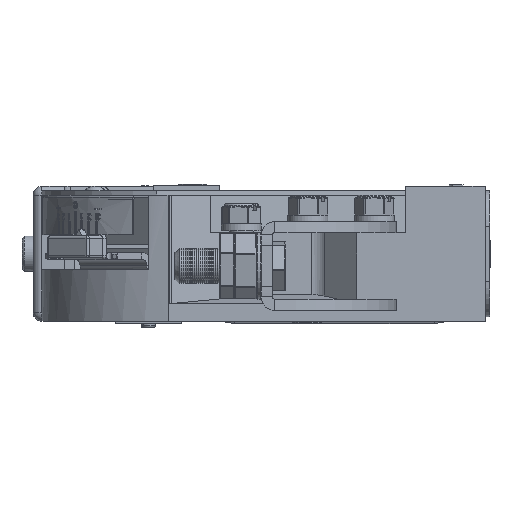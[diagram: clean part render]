
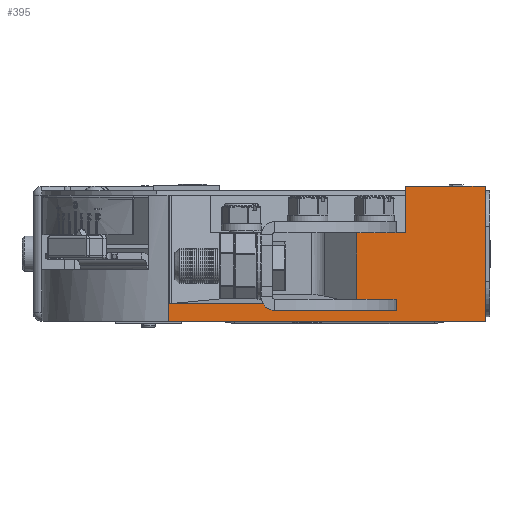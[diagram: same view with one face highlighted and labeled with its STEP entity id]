
A CAD part, left-side view. The second image highlights one B-rep face of the part: STEP entity #395.
In plain terms, the highlighted planar face has unit normal (-1, 0, 0).
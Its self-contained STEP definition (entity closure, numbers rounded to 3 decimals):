
#395=ADVANCED_FACE('',(#29205),#29207,.F.);
#29205=FACE_BOUND('',#29206,.T.);
#29206=EDGE_LOOP('',(#68160,#68161,#68162,#68163,#68164,#68165,#68166,#68167,#68168,
#68169,#68170));
#29207=PLANE('',#29208);
#29208=AXIS2_PLACEMENT_3D('',#29209,#29210,#29211);
#29209=CARTESIAN_POINT('',(-44.324,-49.546,9.62));
#29210=DIRECTION('',(1.,0.,0.));
#29211=DIRECTION('',(0.,0.,-1.));
#68160=ORIENTED_EDGE('',*,*,#84037,.F.);
#68161=ORIENTED_EDGE('',*,*,#84038,.F.);
#68162=ORIENTED_EDGE('',*,*,#84039,.T.);
#68163=ORIENTED_EDGE('',*,*,#84040,.T.);
#68164=ORIENTED_EDGE('',*,*,#84041,.F.);
#68165=ORIENTED_EDGE('',*,*,#84042,.T.);
#68166=ORIENTED_EDGE('',*,*,#84043,.T.);
#68167=ORIENTED_EDGE('',*,*,#84044,.F.);
#68168=ORIENTED_EDGE('',*,*,#84045,.F.);
#68169=ORIENTED_EDGE('',*,*,#84046,.F.);
#68170=ORIENTED_EDGE('',*,*,#83887,.F.);
#83887=EDGE_CURVE('',#91696,#91699,#91700,.T.);
#84037=EDGE_CURVE('',#91971,#91696,#91972,.T.);
#84038=EDGE_CURVE('',#91973,#91971,#91974,.T.);
#84039=EDGE_CURVE('',#91973,#91975,#91976,.T.);
#84040=EDGE_CURVE('',#91975,#91977,#91978,.T.);
#84041=EDGE_CURVE('',#91979,#91977,#91980,.T.);
#84042=EDGE_CURVE('',#91979,#91981,#91982,.T.);
#84043=EDGE_CURVE('',#91981,#91983,#91984,.T.);
#84044=EDGE_CURVE('',#91985,#91983,#91986,.T.);
#84045=EDGE_CURVE('',#91987,#91985,#91988,.T.);
#84046=EDGE_CURVE('',#91699,#91987,#91989,.T.);
#91696=VERTEX_POINT('',#104659);
#91699=VERTEX_POINT('',#104664);
#91700=LINE('',#104665,#104666);
#91971=VERTEX_POINT('',#105310);
#91972=LINE('',#105311,#105312);
#91973=VERTEX_POINT('',#105314);
#91974=LINE('',#105315,#105316);
#91975=VERTEX_POINT('',#105318);
#91976=LINE('',#105319,#105320);
#91977=VERTEX_POINT('',#105322);
#91978=LINE('',#105323,#105324);
#91979=VERTEX_POINT('',#105326);
#91980=LINE('',#105327,#105328);
#91981=VERTEX_POINT('',#105330);
#91982=LINE('',#105331,#105332);
#91983=VERTEX_POINT('',#105334);
#91984=LINE('',#105335,#105336);
#91985=VERTEX_POINT('',#105338);
#91986=LINE('',#105339,#105340);
#91987=VERTEX_POINT('',#105342);
#91988=LINE('',#105343,#105344);
#91989=LINE('',#105346,#105347);
#104659=CARTESIAN_POINT('',(-44.324,-28.546,-0.88));
#104664=CARTESIAN_POINT('',(-44.324,-30.546,-0.88));
#104665=CARTESIAN_POINT('',(-44.324,-28.546,-0.88));
#104666=VECTOR('',#104667,1.);
#104667=DIRECTION('',(0.,-1.,0.));
#105310=CARTESIAN_POINT('',(-44.324,-19.546,-0.88));
#105311=CARTESIAN_POINT('',(-44.324,-19.546,-0.88));
#105312=VECTOR('',#105313,1.);
#105313=DIRECTION('',(0.,-1.,0.));
#105314=CARTESIAN_POINT('',(-44.324,-19.546,-16.88));
#105315=CARTESIAN_POINT('',(-44.324,-19.546,-16.88));
#105316=VECTOR('',#105317,1.);
#105317=DIRECTION('',(0.,0.,1.));
#105318=CARTESIAN_POINT('',(-44.324,22.686,-16.88));
#105319=CARTESIAN_POINT('',(-44.324,-19.546,-16.88));
#105320=VECTOR('',#105321,1.);
#105321=DIRECTION('',(0.,1.,0.));
#105322=CARTESIAN_POINT('',(-44.324,22.686,7.62));
#105323=CARTESIAN_POINT('',(-44.324,22.686,-16.88));
#105324=VECTOR('',#105325,1.);
#105325=DIRECTION('',(0.,0.,1.));
#105326=CARTESIAN_POINT('',(-44.324,22.804,7.62));
#105327=CARTESIAN_POINT('',(-44.324,22.804,7.62));
#105328=VECTOR('',#105329,1.);
#105329=DIRECTION('',(0.,-1.,0.));
#105330=CARTESIAN_POINT('',(-44.324,22.804,-20.88));
#105331=CARTESIAN_POINT('',(-44.324,22.804,7.62));
#105332=VECTOR('',#105333,1.);
#105333=DIRECTION('',(0.,0.,-1.));
#105334=CARTESIAN_POINT('',(-44.324,-48.546,-20.88));
#105335=CARTESIAN_POINT('',(-44.324,22.804,-20.88));
#105336=VECTOR('',#105337,1.);
#105337=DIRECTION('',(0.,-1.,0.));
#105338=CARTESIAN_POINT('',(-44.324,-48.546,9.62));
#105339=CARTESIAN_POINT('',(-44.324,-48.546,9.62));
#105340=VECTOR('',#105341,1.);
#105341=DIRECTION('',(0.,0.,-1.));
#105342=CARTESIAN_POINT('',(-44.324,-30.546,9.62));
#105343=CARTESIAN_POINT('',(-44.324,-30.546,9.62));
#105344=VECTOR('',#105345,1.);
#105345=DIRECTION('',(0.,-1.,0.));
#105346=CARTESIAN_POINT('',(-44.324,-30.546,-0.88));
#105347=VECTOR('',#105348,1.);
#105348=DIRECTION('',(0.,0.,1.));
